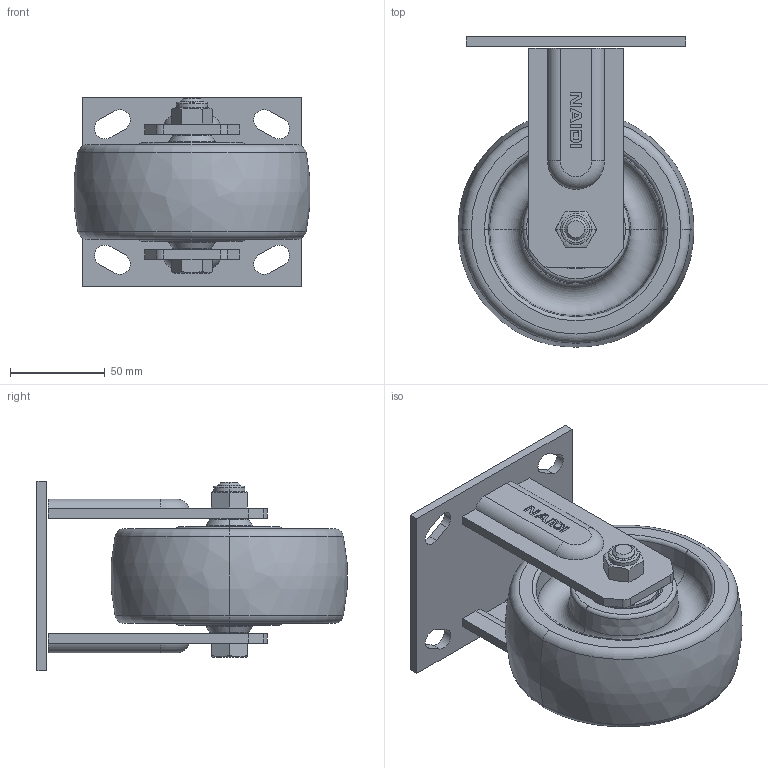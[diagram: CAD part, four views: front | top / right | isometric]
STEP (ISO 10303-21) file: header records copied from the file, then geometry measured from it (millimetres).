
FILE_DESCRIPTION((''),'2;1');
FILE_NAME('C74105_ASM','2024-06-26T',('lin'),(''),'PRO/ENGINEER BY PARAMETRIC TECHNOLOGY CORPORATION, 2010280','PRO/ENGINEER BY PARAMETRIC TECHNOLOGY CORPORATION, 2010280','');
FILE_SCHEMA(('CONFIG_CONTROL_DESIGN'));
Length unit declared in the file: millimetre
Products named in the file (9): C7410-200; C7415-351; C745-906; C7410-008; C740-68; C745-08_ASM; 700-33; 700-34; C74105_ASM
Assembly tree (9 placements, depth 3):
  C74105_ASM
    C7410-200
    C7415-351
    C745-08_ASM
      C745-906
      C7410-008
      C740-68  x2
    700-33
    700-34
Bounding box: 124.5 x 163.75 x 100 mm (x, y, z)
Volume: 544974.2 mm3; surface area: 127287.6 mm2
Topology: 9 solids, 9 shells, 267 faces, 624 edges, 394 vertices
Faces by surface type: plane 121, cylinder 64, torus 52, cone 28, bspline 2
Entity records: 7601 total; most frequent: CARTESIAN_POINT 1487, DIRECTION 1338, ORIENTED_EDGE 1168, EDGE_CURVE 584, AXIS2_PLACEMENT_3D 511, VERTEX_POINT 370, VECTOR 316, LINE 316
